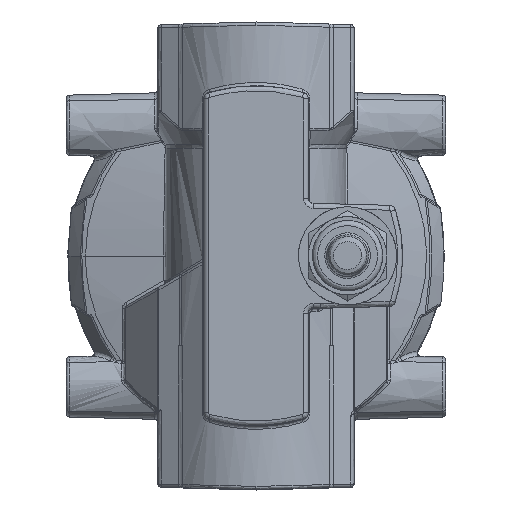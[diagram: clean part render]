
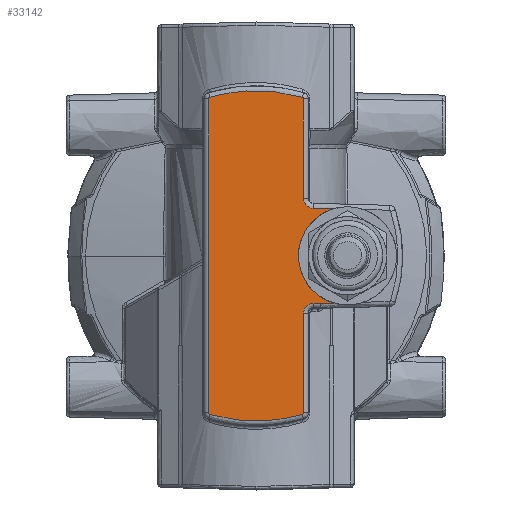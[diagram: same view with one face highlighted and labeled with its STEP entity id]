
A CAD part, top view. The second image highlights one B-rep face of the part: STEP entity #33142.
In plain terms, the highlighted free-form (B-spline) face has degree [1, 1] with [2, 2] control points.
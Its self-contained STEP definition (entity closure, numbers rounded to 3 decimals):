
#14919=CARTESIAN_POINT('V71',(14.508,17.554,
   96.5));
#14920=VERTEX_POINT('V71',#14919);
#14934=CARTESIAN_POINT('V70',(17.43,14.555,
   96.5));
#14935=VERTEX_POINT('V70',#14934);
#14936=CARTESIAN_POINT('E92',(17.43,14.555,
   96.5));
#14937=CARTESIAN_POINT('E92',(14.508,14.632,
   96.5));
#14938=CARTESIAN_POINT('E92',(14.508,17.554,
   96.5));
#14946=(BOUNDED_CURVE()B_SPLINE_CURVE(2,(#14936,#14937,#14938),
   .CIRCULAR_ARC.,.F.,.U.)B_SPLINE_CURVE_WITH_KNOTS((3,3),(2.0,
   3.967),.UNSPECIFIED.)CURVE()
   GEOMETRIC_REPRESENTATION_ITEM()RATIONAL_B_SPLINE_CURVE((1.0,
   0.716,1.0))REPRESENTATION_ITEM('E92'));
#14947=EDGE_CURVE('E92',#14935,#14920,#14946,.T.);
#14980=CARTESIAN_POINT('V72',(14.508,47.98,
   96.5));
#14981=VERTEX_POINT('V72',#14980);
#14995=CARTESIAN_POINT('E93',(14.508,17.554,
   96.5));
#14996=CARTESIAN_POINT('E93',(14.508,47.98,
   96.5));
#14997=B_SPLINE_CURVE_WITH_KNOTS('E93',1,(#14995,#14996),
   .POLYLINE_FORM.,.F.,.U.,(2,2),(2.0,14.913),
   .UNSPECIFIED.);
#14998=EDGE_CURVE('E93',#14920,#14981,#14997,.T.);
#15038=CARTESIAN_POINT('V73',(14.148,48.46,
   96.5));
#15039=VERTEX_POINT('V73',#15038);
#15053=CARTESIAN_POINT('E94',(14.508,47.98,
   96.5));
#15054=CARTESIAN_POINT('E94',(14.508,48.355,
   96.5));
#15055=CARTESIAN_POINT('E94',(14.148,48.46,
   96.5));
#15063=(BOUNDED_CURVE()B_SPLINE_CURVE(2,(#15053,#15054,#15055),
   .CIRCULAR_ARC.,.F.,.U.)B_SPLINE_CURVE_WITH_KNOTS((3,3),(2.0,
   3.0),.UNSPECIFIED.)CURVE()GEOMETRIC_REPRESENTATION_ITEM()
   RATIONAL_B_SPLINE_CURVE((1.0,0.8,1.0))
   REPRESENTATION_ITEM('E94'));
#15064=EDGE_CURVE('E94',#14981,#15039,#15063,.T.);
#15104=CARTESIAN_POINT('V74',(-14.132,48.46,
   96.5));
#15105=VERTEX_POINT('V74',#15104);
#15119=CARTESIAN_POINT('E95',(14.148,48.46,
   96.5));
#15120=CARTESIAN_POINT('E95',(0.008,52.584,
   96.5));
#15121=CARTESIAN_POINT('E95',(-14.132,48.46,
   96.5));
#15129=(BOUNDED_CURVE()B_SPLINE_CURVE(2,(#15119,#15120,#15121),
   .CIRCULAR_ARC.,.F.,.U.)B_SPLINE_CURVE_WITH_KNOTS((3,3),(2.0,
   14.165),.UNSPECIFIED.)CURVE()
   GEOMETRIC_REPRESENTATION_ITEM()RATIONAL_B_SPLINE_CURVE((1.0,
   0.96,1.0))REPRESENTATION_ITEM('E95'));
#15130=EDGE_CURVE('E95',#15039,#15105,#15129,.T.);
#15170=CARTESIAN_POINT('V75',(-14.492,47.98,
   96.5));
#15171=VERTEX_POINT('V75',#15170);
#15185=CARTESIAN_POINT('E96',(-14.132,48.46,
   96.5));
#15186=CARTESIAN_POINT('E96',(-14.492,48.355,
   96.5));
#15187=CARTESIAN_POINT('E96',(-14.492,47.98,
   96.5));
#15195=(BOUNDED_CURVE()B_SPLINE_CURVE(2,(#15185,#15186,#15187),
   .CIRCULAR_ARC.,.F.,.U.)B_SPLINE_CURVE_WITH_KNOTS((3,3),(2.0,
   3.0),.UNSPECIFIED.)CURVE()GEOMETRIC_REPRESENTATION_ITEM()
   RATIONAL_B_SPLINE_CURVE((1.0,0.8,1.0))
   REPRESENTATION_ITEM('E96'));
#15196=EDGE_CURVE('E96',#15105,#15171,#15195,.T.);
#15217=CARTESIAN_POINT('V76',(-14.492,
   -48.02,96.5));
#15218=VERTEX_POINT('V76',#15217);
#15234=CARTESIAN_POINT('E97',(-14.492,47.98,
   96.5));
#15235=CARTESIAN_POINT('E97',(-14.492,
   -48.02,96.5));
#15236=B_SPLINE_CURVE_WITH_KNOTS('E97',1,(#15234,#15235),
   .POLYLINE_FORM.,.F.,.U.,(2,2),(2.0,42.744),
   .UNSPECIFIED.);
#15237=EDGE_CURVE('E97',#15171,#15218,#15236,.T.);
#15281=CARTESIAN_POINT('V77',(-14.132,
   -48.5,96.5));
#15282=VERTEX_POINT('V77',#15281);
#15298=CARTESIAN_POINT('E98',(-14.492,
   -48.02,96.5));
#15299=CARTESIAN_POINT('E98',(-14.492,
   -48.395,96.5));
#15300=CARTESIAN_POINT('E98',(-14.132,
   -48.5,96.5));
#15308=(BOUNDED_CURVE()B_SPLINE_CURVE(2,(#15298,#15299,#15300),
   .CIRCULAR_ARC.,.F.,.U.)B_SPLINE_CURVE_WITH_KNOTS((3,3),(2.0,
   3.0),.UNSPECIFIED.)CURVE()GEOMETRIC_REPRESENTATION_ITEM()
   RATIONAL_B_SPLINE_CURVE((1.0,0.8,1.0))
   REPRESENTATION_ITEM('E98'));
#15309=EDGE_CURVE('E98',#15218,#15282,#15308,.T.);
#15361=CARTESIAN_POINT('V78',(14.148,-48.5,
   96.5));
#15362=VERTEX_POINT('V78',#15361);
#15378=CARTESIAN_POINT('E99',(-14.132,
   -48.5,96.5));
#15379=CARTESIAN_POINT('E99',(0.008,-52.624,
   96.5));
#15380=CARTESIAN_POINT('E99',(14.148,-48.5,
   96.5));
#15388=(BOUNDED_CURVE()B_SPLINE_CURVE(2,(#15378,#15379,#15380),
   .CIRCULAR_ARC.,.F.,.U.)B_SPLINE_CURVE_WITH_KNOTS((3,3),(2.0,
   14.165),.UNSPECIFIED.)CURVE()
   GEOMETRIC_REPRESENTATION_ITEM()RATIONAL_B_SPLINE_CURVE((1.0,
   0.96,1.0))REPRESENTATION_ITEM('E99'));
#15389=EDGE_CURVE('E99',#15282,#15362,#15388,.T.);
#15441=CARTESIAN_POINT('V79',(14.508,-48.02,
   96.5));
#15442=VERTEX_POINT('V79',#15441);
#15458=CARTESIAN_POINT('E100',(14.148,
   -48.5,96.5));
#15459=CARTESIAN_POINT('E100',(14.508,
   -48.395,96.5));
#15460=CARTESIAN_POINT('E100',(14.508,
   -48.02,96.5));
#15468=(BOUNDED_CURVE()B_SPLINE_CURVE(2,(#15458,#15459,#15460),
   .CIRCULAR_ARC.,.F.,.U.)B_SPLINE_CURVE_WITH_KNOTS((3,3),(2.0,
   3.0),.UNSPECIFIED.)CURVE()GEOMETRIC_REPRESENTATION_ITEM()
   RATIONAL_B_SPLINE_CURVE((1.0,0.8,1.0))
   REPRESENTATION_ITEM('E100'));
#15469=EDGE_CURVE('E100',#15362,#15442,#15468,.T.);
#15502=CARTESIAN_POINT('V80',(14.508,-17.589,
   96.5));
#15503=VERTEX_POINT('V80',#15502);
#15519=CARTESIAN_POINT('E101',(14.508,
   -48.02,96.5));
#15520=CARTESIAN_POINT('E101',(14.508,
   -17.589,96.5));
#15521=B_SPLINE_CURVE_WITH_KNOTS('E101',1,(#15519,#15520),
   .POLYLINE_FORM.,.F.,.U.,(2,2),(2.0,14.915),
   .UNSPECIFIED.);
#15522=EDGE_CURVE('E101',#15442,#15503,#15521,.T.);
#15549=CARTESIAN_POINT('V82',(19.581,-14.533,
   96.5));
#15550=VERTEX_POINT('V82',#15549);
#15564=CARTESIAN_POINT('V81',(17.429,-14.59,
   96.5));
#15565=VERTEX_POINT('V81',#15564);
#15566=CARTESIAN_POINT('E103',(17.429,
   -14.59,96.5));
#15567=CARTESIAN_POINT('E103',(19.581,
   -14.533,96.5));
#15568=B_SPLINE_CURVE_WITH_KNOTS('E103',1,(#15566,#15567),
   .POLYLINE_FORM.,.F.,.U.,(2,2),(2.0,3.0),.UNSPECIFIED.);
#15569=EDGE_CURVE('E103',#15565,#15550,#15568,.T.);
#15628=CARTESIAN_POINT('E102',(14.508,
   -17.589,96.5));
#15629=CARTESIAN_POINT('E102',(14.508,
   -14.667,96.5));
#15630=CARTESIAN_POINT('E102',(17.429,
   -14.59,96.5));
#15638=(BOUNDED_CURVE()B_SPLINE_CURVE(2,(#15628,#15629,#15630),
   .CIRCULAR_ARC.,.F.,.U.)B_SPLINE_CURVE_WITH_KNOTS((3,3),(2.0,
   3.966),.UNSPECIFIED.)CURVE()
   GEOMETRIC_REPRESENTATION_ITEM()RATIONAL_B_SPLINE_CURVE((1.0,
   0.716,1.0))REPRESENTATION_ITEM('E102'));
#15639=EDGE_CURVE('E102',#15503,#15565,#15638,.T.);
#33073=CARTESIAN_POINT('V67',(23.764,14.389,
   96.5));
#33074=VERTEX_POINT('V67',#33073);
#33092=CARTESIAN_POINT('E91',(23.764,14.389,
   96.5));
#33093=CARTESIAN_POINT('E91',(17.43,14.555,
   96.5));
#33094=B_SPLINE_CURVE_WITH_KNOTS('E91',1,(#33092,#33093),
   .POLYLINE_FORM.,.F.,.U.,(2,2),(9.192,
   11.881),.UNSPECIFIED.);
#33095=EDGE_CURVE('E91',#33074,#14935,#33094,.T.);
#33100=CARTESIAN_POINT('F25',(-17.692,
   -57.32,96.5));
#33101=CARTESIAN_POINT('F25',(47.204,-57.32,
   96.5));
#33102=CARTESIAN_POINT('F25',(-17.692,57.28,
   96.5));
#33103=CARTESIAN_POINT('F25',(47.204,57.28,
   96.5));
#33104=B_SPLINE_SURFACE_WITH_KNOTS('F25',1,1,((#33100,#33102),(
   #33101,#33103)),.PLANE_SURF.,.F.,.F.,.U.,(2,2),(2,2),(0.0,1.0),
   (0.0,1.766),.UNSPECIFIED.);
#33105=CARTESIAN_POINT('V66',(23.89,-14.426,
   96.5));
#33106=VERTEX_POINT('V66',#33105);
#33107=CARTESIAN_POINT('E86',(23.89,-14.426,
   96.5));
#33108=CARTESIAN_POINT('E86',(20.334,-13.413,
   96.5));
#33109=CARTESIAN_POINT('E86',(17.656,-10.863,
   96.5));
#33110=CARTESIAN_POINT('E86',(-1.159,7.052,
   96.5));
#33111=CARTESIAN_POINT('E86',(23.764,14.389,
   96.5));
#33119=(BOUNDED_CURVE()B_SPLINE_CURVE(2,(#33107,#33108,#33109,
   #33110,#33111),.CIRCULAR_ARC.,.F.,.U.)B_SPLINE_CURVE_WITH_KNOTS(
   (3,2,3),(0.0,0.083,0.416),.UNSPECIFIED.
   )CURVE()GEOMETRIC_REPRESENTATION_ITEM()RATIONAL_B_SPLINE_CURVE((
   0.813,0.875,1.0,0.5,1.0))
   REPRESENTATION_ITEM('E86'));
#33120=EDGE_CURVE('E86',#33106,#33074,#33119,.T.);
#33121=ORIENTED_EDGE('E86',*,*,#33120,.T.);
#33122=ORIENTED_EDGE('F27',*,*,#33095,.T.);
#33123=ORIENTED_EDGE('E92',*,*,#14947,.T.);
#33124=ORIENTED_EDGE('E93',*,*,#14998,.T.);
#33125=ORIENTED_EDGE('E94',*,*,#15064,.T.);
#33126=ORIENTED_EDGE('E95',*,*,#15130,.T.);
#33127=ORIENTED_EDGE('E96',*,*,#15196,.T.);
#33128=ORIENTED_EDGE('E97',*,*,#15237,.T.);
#33129=ORIENTED_EDGE('E98',*,*,#15309,.T.);
#33130=ORIENTED_EDGE('E99',*,*,#15389,.T.);
#33131=ORIENTED_EDGE('E100',*,*,#15469,.T.);
#33132=ORIENTED_EDGE('E101',*,*,#15522,.T.);
#33133=ORIENTED_EDGE('E102',*,*,#15639,.T.);
#33134=ORIENTED_EDGE('E103',*,*,#15569,.T.);
#33135=CARTESIAN_POINT('E104',(19.581,
   -14.539,96.5));
#33136=CARTESIAN_POINT('E104',(23.89,
   -14.426,96.5));
#33137=B_SPLINE_CURVE_WITH_KNOTS('E104',1,(#33135,#33136),
   .POLYLINE_FORM.,.F.,.U.,(2,2),(2.0,3.829),
   .UNSPECIFIED.);
#33138=EDGE_CURVE('E104',#15550,#33106,#33137,.T.);
#33139=ORIENTED_EDGE('E104',*,*,#33138,.T.);
#33140=EDGE_LOOP('F25',(#33121,#33122,#33123,#33124,#33125,#33126,
   #33127,#33128,#33129,#33130,#33131,#33132,#33133,#33134,#33139)
   );
#33141=FACE_OUTER_BOUND('F25',#33140,.T.);
#33142=ADVANCED_FACE('F25',(#33141),#33104,.T.);
